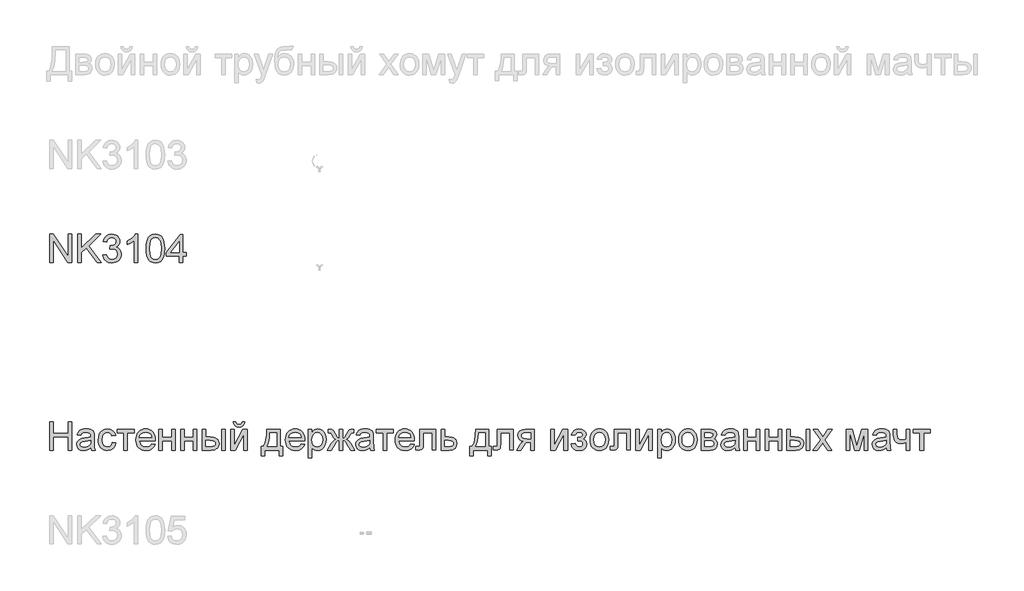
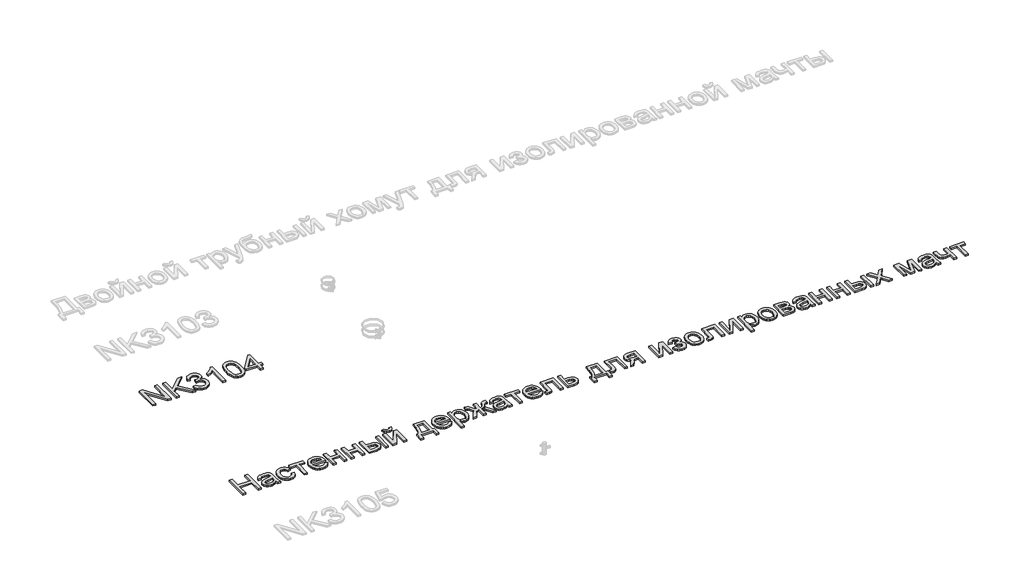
# One storey, part 14 of 124: 2 proxies.
"""IFC4 building model written with IfcOpenShell, lengths in millimetres."""

from ifc_helpers import new_model, si_unit, origin, origin_with_axes, place, context, project, spatial, polyline, outline, extrude, element, save

model = new_model("IFC4")

# Units and contexts
model_context = context("Model", 3, world=origin())
ifc_project = project(units=[si_unit("LENGTHUNIT", "METRE", prefix="MILLI")], contexts=[model_context])

# Site, building, storey
site = spatial("IfcSite", under=ifc_project)
building = spatial("IfcBuilding", under=site)
storey = spatial("IfcBuildingStorey", under=building, Name="Этаж 01", Elevation=0.0)

# Proxies
placement = place(None, origin())
element("IfcBuildingElementProxy", 1, Name="300", ObjectType="300", at=placement, inside=storey, context=model_context, shape_type="SweptSolid", body=[
    extrude(outline(polyline([(1299.8220677, -106548.8731539), (1299.8220677, -106247.5042234), (1340.1419344, -106247.5042234), (1497.5954283, -106486.2596383), (1497.5954283, -106247.5042234), (1535.2665446, -106247.5042234), (1535.2665446, -106548.8731539), (1494.9466779, -106548.8731539), (1337.493184, -106310.0441626), (1337.493184, -106548.8731539), (1299.8220677, -106548.8731539)])), origin_with_axes(), (0.0, 0.0, 1.0), 20.0),
    extrude(outline(polyline([(1601.1909981, -106548.8731539), (1601.1909981, -106247.5042234), (1638.8621144, -106247.5042234), (1638.8621144, -106395.0249035), (1793.3725524, -106247.5042234), (1846.0532541, -106247.5042234), (1716.3380626, -106371.4068794), (1850.7621437, -106548.8731539), (1804.7033179, -106548.8731539), (1689.6298298, -106396.8643135), (1638.8621144, -106445.277584), (1638.8621144, -106548.8731539), (1601.1909981, -106548.8731539)])), origin_with_axes(), (0.0, 0.0, 1.0), 20.0),
    extrude(outline(polyline([(1864.8888123, -106468.8220317), (1902.5599286, -106464.1131422), (1910.9936233, -106487.7863486), (1923.3452613, -106503.7708213), (1940.2218478, -106512.8759007), (1962.2303882, -106515.9109271), (1988.0557043, -106511.7354665), (2007.9949084, -106499.2090845), (2020.7420195, -106480.5206792), (2024.9910566, -106457.8591483), (2020.7788077, -106436.3472486), (2008.1420612, -106418.900445), (1989.0121975, -106407.3397533), (1965.320597, -106403.4861894), (1938.9066697, -106407.6064677), (1943.1005245, -106369.9353514), (1949.1337892, -106370.3768098), (1971.7033496, -106367.6728772), (1991.881677, -106359.5610792), (2006.1187102, -106345.8390807), (2010.864388, -106326.3045468), (2007.4246913, -106310.0349656), (1997.1056014, -106296.837199), (1981.360252, -106288.0908046), (1961.641777, -106285.1753397), (1941.8865139, -106288.1183957), (1925.7364943, -106296.9475636), (1913.9458763, -106311.6628434), (1907.2688181, -106332.2642351), (1869.5977018, -106327.5553456), (1880.689344, -106293.7285961), (1900.426213, -106268.4734972), (1927.4287515, -106252.7465419), (1960.3174018, -106247.5042234), (1983.9998053, -106250.0885945), (2005.7508282, -106257.8417075), (2024.0897457, -106270.0737838), (2037.5358326, -106286.0950447), (2045.7855864, -106304.5535238), (2048.5355043, -106324.0972548), (2045.9235421, -106342.3074136), (2038.0876556, -106358.8253152), (2025.1382094, -106372.8968015), (2007.185568, -106383.7677145), (2030.7668039, -106393.2958581), (2048.2411987, -106409.5194541), (2059.0569293, -106431.5555856), (2062.6621729, -106458.5213359), (2060.8595511, -106477.6328055), (2055.4516858, -106495.235959), (2046.4385769, -106511.3307963), (2033.8202245, -106525.9173174), (2018.4473556, -106538.020635), (2001.1706974, -106546.6658619), (1981.9902499, -106551.852998), (1960.906013, -106553.5820434), (1941.8497257, -106552.1059169), (1924.4856955, -106547.6775374), (1908.8139225, -106540.2969049), (1894.8344067, -106529.9640193), (1883.1127666, -106517.2858861), (1874.2146209, -106502.8695104), (1868.1399694, -106486.7148923), (1864.8888123, -106468.8220317)])), origin_with_axes(), (0.0, 0.0, 1.0), 20.0),
    extrude(outline(polyline([(2236.8910858, -106548.8731539), (2199.2199695, -106548.8731539), (2199.2199695, -106314.0172882), (2163.535416, -106339.437934), (2123.8777369, -106358.4574332), (2123.8777369, -106322.846456), (2153.4646464, -106306.7516188), (2179.0968244, -106287.6033609), (2199.302743, -106267.2410925), (2212.6108741, -106247.5042234), (2236.8910858, -106247.5042234), (2236.8910858, -106548.8731539)])), origin_with_axes(), (0.0, 0.0, 1.0), 20.0),
    extrude(outline(polyline([(2326.359987, -106400.6167098), (2329.128299, -106352.3781832), (2337.4332351, -106313.9069236), (2351.1920217, -106284.6143197), (2370.3218855, -106263.9117604), (2394.9607821, -106251.6061077), (2425.2466673, -106247.5042234), (2448.4600212, -106249.9322446), (2469.245354, -106257.2163081), (2486.6277782, -106269.0713054), (2499.6324068, -106285.2121279), (2509.454856, -106305.50082), (2517.2907425, -106329.7994258), (2522.4226964, -106360.6555281), (2524.1333476, -106400.6167098), (2521.3926268, -106448.579325), (2513.1704642, -106486.9586141), (2499.494451, -106516.2788091), (2480.3921784, -106537.0641418), (2455.6980995, -106549.452568), (2425.2466673, -106553.5820434), (2404.4981228, -106551.7886187), (2386.1040231, -106546.4083445), (2370.0643681, -106537.4412209), (2356.3791578, -106524.8872478), (2343.2457706, -106502.1935272), (2333.8647797, -106473.9171974), (2328.2361852, -106440.0582582), (2326.359987, -106400.6167098)]), holes=[polyline([(2364.0311033, -106400.5431334), (2368.4456873, -106459.7997258), (2373.9639172, -106480.0677245), (2381.6894391, -106494.0955248), (2401.4079141, -106510.4570765), (2425.2466673, -106515.9109271), (2449.0854206, -106510.4386824), (2468.8038956, -106494.0219484), (2476.5294175, -106479.9711555), (2482.0476474, -106459.7077553), (2486.4622313, -106400.5431334), (2482.1948002, -106342.6201133), (2476.8605113, -106322.4187932), (2469.3925068, -106308.0575998), (2449.71082, -106290.8959048), (2424.8052089, -106285.1753397), (2401.2239731, -106290.2153231), (2382.2780503, -106305.3352731), (2374.295011, -106320.9702579), (2368.5928401, -106342.0498962), (2364.0311033, -106400.5431334)])]), origin_with_axes(), (0.0, 0.0, 1.0), 20.0),
    extrude(outline(polyline([(2679.5267024, -106548.8731539), (2679.5267024, -106478.2398108), (2542.9689058, -106478.2398108), (2542.9689058, -106440.5686945), (2688.9444815, -106252.213113), (2717.1978187, -106252.213113), (2717.1978187, -106440.5686945), (2754.868935, -106440.5686945), (2754.868935, -106478.2398108), (2717.1978187, -106478.2398108), (2717.1978187, -106548.8731539), (2679.5267024, -106548.8731539)]), holes=[polyline([(2679.5267024, -106440.5686945), (2679.5267024, -106324.1708312), (2589.3220372, -106440.5686945), (2679.5267024, -106440.5686945)])]), origin_with_axes(), (0.0, 0.0, 1.0), 20.0),
])
element("IfcBuildingElementProxy", 2, Name="300", ObjectType="300", at=placement, inside=storey, context=model_context, shape_type="SweptSolid", body=[
    extrude(outline(polyline([(1299.8220677, -108548.8731539), (1299.8220677, -108247.5042234), (1337.493184, -108247.5042234), (1337.493184, -108369.9353514), (1497.5954283, -108369.9353514), (1497.5954283, -108247.5042234), (1535.2665446, -108247.5042234), (1535.2665446, -108548.8731539), (1497.5954283, -108548.8731539), (1497.5954283, -108407.6064677), (1337.493184, -108407.6064677), (1337.493184, -108548.8731539), (1299.8220677, -108548.8731539)])), origin_with_axes(), (0.0, 0.0, 1.0), 20.0),
    extrude(outline(polyline([(1737.7487948, -108520.6198167), (1719.7501681, -108536.0524664), (1701.2181126, -108546.1508271), (1681.7295639, -108551.7242393), (1660.8614578, -108553.5820434), (1629.379956, -108549.1122772), (1606.1574051, -108535.7029785), (1591.8375984, -108515.34071), (1587.0643295, -108490.0120347), (1588.8669513, -108474.395444), (1594.2748166, -108460.213593), (1602.6165409, -108448.0734872), (1613.2207394, -108438.5821317), (1639.5978784, -108426.2212967), (1672.1922232, -108420.555914), (1710.7094681, -108414.5962256), (1737.5280656, -108407.6064677), (1737.7487948, -108399.2187582), (1735.1552267, -108382.4065511), (1727.3745225, -108371.4068794), (1709.9737041, -108363.2398991), (1685.7302806, -108360.5175724), (1663.2894789, -108362.3293912), (1647.6177059, -108367.7648477), (1636.930734, -108377.8172232), (1629.4443354, -108393.4797991), (1591.7732191, -108388.7709096), (1598.3123215, -108368.1695179), (1608.0703915, -108351.9827101), (1621.9579368, -108339.6034809), (1640.8854654, -108330.4248251), (1664.03444, -108324.7410483), (1690.586323, -108322.846456), (1716.0529541, -108324.5203191), (1736.2404786, -108329.5419084), (1751.4615961, -108337.0926863), (1762.0290064, -108346.3541155), (1769.0371584, -108357.8044426), (1773.5805011, -108371.9219142), (1775.4199111, -108404.884141), (1775.4199111, -108451.7523072), (1777.3328974, -108517.1985141), (1784.8376901, -108548.8731539), (1747.1665738, -108548.8731539), (1737.7487948, -108520.6198167)]), holes=[polyline([(1737.7487948, -108445.277584), (1676.9746891, -108456.8290787), (1644.5642854, -108462.9359198), (1629.8857938, -108472.8687337), (1624.7354458, -108487.3632843), (1627.540546, -108498.565291), (1635.9558467, -108507.7439468), (1649.7974068, -108513.869182), (1668.8812853, -108515.9109271), (1689.114795, -108513.6576499), (1706.99386, -108506.8978182), (1721.4884106, -108496.9374132), (1731.5683772, -108485.0824159), (1736.0381435, -108472.8687337), (1737.5280656, -108455.9461619), (1737.7487948, -108445.277584)])]), origin_with_axes(), (0.0, 0.0, 1.0), 20.0),
    extrude(outline(polyline([(1968.4843821, -108468.8220317), (2006.1554984, -108473.5309213), (1995.6524675, -108507.035774), (1975.9155984, -108532.3552523), (1948.8026954, -108548.2753456), (1916.1715624, -108553.5820434), (1895.0436396, -108551.7311371), (1876.1000161, -108546.1784183), (1859.3406919, -108536.9238868), (1844.7656671, -108523.9675428), (1832.9681514, -108507.553108), (1824.5413545, -108487.9243043), (1819.4852763, -108465.0811317), (1817.7999169, -108439.0235901), (1820.6785935, -108405.5003433), (1829.3146234, -108376.4468627), (1843.8459622, -108352.9851885), (1864.4105657, -108336.2373607), (1889.0126741, -108326.1941822), (1915.6565276, -108322.846456), (1947.4875173, -108327.444981), (1972.9357543, -108341.2405558), (1991.1918983, -108363.4974165), (2001.4466089, -108393.4797991), (1963.7754926, -108398.1886887), (1956.9420845, -108381.7535605), (1946.3010978, -108369.9721396), (1932.4411436, -108362.8812142), (1915.9508332, -108360.5175724), (1891.6062422, -108365.1712796), (1872.2832404, -108379.1324013), (1859.674085, -108403.1550956), (1855.4710332, -108437.9935205), (1859.5821145, -108473.300995), (1871.9153584, -108497.4064628), (1890.8888723, -108511.284811), (1914.9207636, -108515.9109271), (1934.4277064, -108513.0230535), (1950.4213762, -108504.3594325), (1962.0556443, -108489.699335), (1968.4843821, -108468.8220317)])), origin_with_axes(), (0.0, 0.0, 1.0), 20.0),
    extrude(outline(polyline([(2020.282167, -108327.5553456), (2199.2199695, -108327.5553456), (2199.2199695, -108365.2264619), (2128.5866264, -108365.2264619), (2128.5866264, -108548.8731539), (2090.9155101, -108548.8731539), (2090.9155101, -108365.2264619), (2020.282167, -108365.2264619), (2020.282167, -108327.5553456)])), origin_with_axes(), (0.0, 0.0, 1.0), 20.0),
    extrude(outline(polyline([(2387.1340926, -108482.9487003), (2424.069445, -108487.6575899), (2410.7613138, -108515.4878628), (2389.5253256, -108536.2915897), (2360.839727, -108549.25943), (2325.1827647, -108553.5820434), (2301.8084624, -108551.7173416), (2280.9817429, -108546.123236), (2262.7026063, -108536.7997267), (2246.9710525, -108523.7468136), (2234.3205104, -108507.3277803), (2225.2844089, -108487.9059102), (2219.862748, -108465.4812034), (2218.0555277, -108440.0536597), (2219.8811421, -108413.7638926), (2225.3579853, -108390.5919255), (2234.4860573, -108370.5377582), (2247.2653581, -108353.6013908), (2262.9555252, -108340.1461069), (2280.816196, -108330.5351897), (2300.8473707, -108324.7686395), (2323.0490491, -108322.846456), (2344.5356569, -108324.7640409), (2363.966724, -108330.5167956), (2381.3422505, -108340.1047201), (2396.6622363, -108353.5278144), (2409.1679249, -108370.4273936), (2418.1005596, -108390.4447727), (2423.4601404, -108413.5799516), (2425.2466673, -108439.8329305), (2425.0259381, -108449.9864736), (2255.726644, -108449.9864736), (2262.2473523, -108478.1846285), (2277.3948935, -108498.9147789), (2299.256281, -108511.6618901), (2325.9185286, -108515.9109271), (2345.9680974, -108513.9427584), (2362.853881, -108508.0382524), (2376.5758794, -108497.8295271), (2387.1340926, -108482.9487003)]), holes=[polyline([(2255.726644, -108412.3153573), (2387.575551, -108412.3153573), (2382.4803854, -108392.4129413), (2372.4923892, -108378.1759081), (2350.5298341, -108364.9321563), (2322.9018963, -108360.5175724), (2297.5088416, -108364.0400425), (2276.5119767, -108374.6074528), (2261.9162585, -108391.0793691), (2255.726644, -108412.3153573)])]), origin_with_axes(), (0.0, 0.0, 1.0), 20.0),
    extrude(outline(polyline([(2462.9177836, -108327.5553456), (2500.5889, -108327.5553456), (2500.5889, -108412.3153573), (2599.4755803, -108412.3153573), (2599.4755803, -108327.5553456), (2637.1466966, -108327.5553456), (2637.1466966, -108548.8731539), (2599.4755803, -108548.8731539), (2599.4755803, -108449.9864736), (2500.5889, -108449.9864736), (2500.5889, -108548.8731539), (2462.9177836, -108548.8731539), (2462.9177836, -108327.5553456)])), origin_with_axes(), (0.0, 0.0, 1.0), 20.0),
    extrude(outline(polyline([(2693.653371, -108327.5553456), (2731.3244873, -108327.5553456), (2731.3244873, -108412.3153573), (2830.2111676, -108412.3153573), (2830.2111676, -108327.5553456), (2867.8822839, -108327.5553456), (2867.8822839, -108548.8731539), (2830.2111676, -108548.8731539), (2830.2111676, -108449.9864736), (2731.3244873, -108449.9864736), (2731.3244873, -108548.8731539), (2693.653371, -108548.8731539), (2693.653371, -108327.5553456)])), origin_with_axes(), (0.0, 0.0, 1.0), 20.0),
    extrude(outline(polyline([(3131.5800981, -108327.5553456), (3169.2512144, -108327.5553456), (3169.2512144, -108548.8731539), (3131.5800981, -108548.8731539), (3131.5800981, -108327.5553456)])), origin_with_axes(), (0.0, 0.0, 1.0), 20.0),
    extrude(outline(polyline([(2924.3889584, -108327.5553456), (2962.0600747, -108327.5553456), (2962.0600747, -108407.6064677), (3008.6339353, -108407.6064677), (3048.8894226, -108412.3245543), (3065.1061208, -108418.2221626), (3078.7154554, -108426.4788141), (3089.4829015, -108436.8094004), (3097.1739345, -108448.9288128), (3101.7885543, -108462.8370515), (3103.3267608, -108478.5341164), (3098.1672159, -108505.4906696), (3082.6885809, -108528.234974), (3070.8266858, -108537.2641777), (3055.8791805, -108543.7136089), (3016.7273392, -108548.8731539), (2924.3889584, -108548.8731539), (2924.3889584, -108327.5553456)]), holes=[polyline([(2962.0600747, -108511.2020376), (3000.7612606, -108511.2020376), (3030.7620373, -108509.2246719), (3050.7196355, -108503.2925747), (3061.9216423, -108493.1666228), (3065.6556445, -108478.6076928), (3062.8873325, -108466.3020401), (3054.5823965, -108455.4311271), (3036.8228932, -108447.8159698), (3005.6908793, -108445.277584), (2962.0600747, -108445.277584), (2962.0600747, -108511.2020376)])]), origin_with_axes(), (0.0, 0.0, 1.0), 20.0),
    extrude(outline(polyline([(3348.1890168, -108247.5042234), (3376.4423541, -108247.5042234), (3370.3631041, -108271.6280853), (3358.1586189, -108289.4059827), (3340.3807215, -108300.3596691), (3317.5812348, -108304.0108979), (3292.8411707, -108300.3872602), (3273.6561246, -108289.5163473), (3260.5411315, -108271.766041), (3254.0112261, -108247.5042234), (3282.2645633, -108247.5042234), (3286.2376889, -108259.9110437), (3292.8595648, -108268.7310146), (3302.1669792, -108274.0009241), (3314.1967205, -108275.7575607), (3327.7715661, -108274.0561064), (3337.5940154, -108268.9517438), (3344.2158913, -108260.1869552), (3348.1890168, -108247.5042234)])), origin_with_axes(), (0.0, 0.0, 1.0), 20.0),
    extrude(outline(polyline([(3225.7578888, -108327.5553456), (3263.4290051, -108327.5553456), (3263.4290051, -108496.339605), (3355.9881151, -108327.5553456), (3404.6956913, -108327.5553456), (3404.6956913, -108548.8731539), (3367.024575, -108548.8731539), (3367.024575, -108381.1189641), (3275.0540762, -108548.8731539), (3225.7578888, -108548.8731539), (3225.7578888, -108327.5553456)])), origin_with_axes(), (0.0, 0.0, 1.0), 20.0),
    extrude(outline(polyline([(3611.886831, -108327.5553456), (3753.1535171, -108327.5553456), (3753.1535171, -108511.2020376), (3781.4068544, -108511.2020376), (3781.4068544, -108610.0887179), (3743.7357381, -108610.0887179), (3743.7357381, -108548.8731539), (3588.3423833, -108548.8731539), (3588.3423833, -108610.0887179), (3550.671267, -108610.0887179), (3550.671267, -108511.2020376), (3574.2157147, -108511.2020376), (3591.3314245, -108480.2723588), (3603.3151805, -108439.3546839), (3610.1669827, -108388.4490128), (3611.886831, -108327.5553456)]), holes=[polyline([(3644.8490577, -108365.2264619), (3641.758849, -108411.349667), (3636.0198899, -108451.0533314), (3627.6321804, -108484.3374549), (3616.5957205, -108511.2020376), (3715.4824008, -108511.2020376), (3715.4824008, -108365.2264619), (3644.8490577, -108365.2264619)])]), origin_with_axes(), (0.0, 0.0, 1.0), 20.0),
    extrude(outline(polyline([(3978.7387566, -108482.9487003), (4015.6741089, -108487.6575899), (4002.3659777, -108515.4878628), (3981.1299895, -108536.2915897), (3952.444391, -108549.25943), (3916.7874286, -108553.5820434), (3893.4131263, -108551.7173416), (3872.5864069, -108546.123236), (3854.3072702, -108536.7997267), (3838.5757164, -108523.7468136), (3825.9251743, -108507.3277803), (3816.8890728, -108487.9059102), (3811.4674119, -108465.4812034), (3809.6601916, -108440.0536597), (3811.485806, -108413.7638926), (3816.9626492, -108390.5919255), (3826.0907212, -108370.5377582), (3838.870022, -108353.6013908), (3854.5601891, -108340.1461069), (3872.42086, -108330.5351897), (3892.4520346, -108324.7686395), (3914.653713, -108322.846456), (3936.1403208, -108324.7640409), (3955.5713879, -108330.5167956), (3972.9469144, -108340.1047201), (3988.2669002, -108353.5278144), (4000.7725888, -108370.4273936), (4009.7052235, -108390.4447727), (4015.0648043, -108413.5799516), (4016.8513313, -108439.8329305), (4016.6306021, -108449.9864736), (3847.3313079, -108449.9864736), (3853.8520163, -108478.1846285), (3868.9995574, -108498.9147789), (3890.860945, -108511.6618901), (3917.5231926, -108515.9109271), (3937.5727613, -108513.9427584), (3954.4585449, -108508.0382524), (3968.1805433, -108497.8295271), (3978.7387566, -108482.9487003)]), holes=[polyline([(3847.3313079, -108412.3153573), (3979.180215, -108412.3153573), (3974.0850493, -108392.4129413), (3964.0970532, -108378.1759081), (3942.1344981, -108364.9321563), (3914.5065602, -108360.5175724), (3889.1135055, -108364.0400425), (3868.1166406, -108374.6074528), (3853.5209225, -108391.0793691), (3847.3313079, -108412.3153573)])]), origin_with_axes(), (0.0, 0.0, 1.0), 20.0),
    extrude(outline(polyline([(4054.5224476, -108633.6331656), (4054.5224476, -108327.5553456), (4092.1935639, -108327.5553456), (4092.1935639, -108364.4906979), (4104.4808225, -108346.2713421), (4118.2396091, -108333.2575165), (4134.2792641, -108325.4492212), (4153.4091279, -108322.846456), (4178.884956, -108326.4884878), (4201.1602109, -108337.4145831), (4219.2967932, -108354.9625542), (4232.356604, -108378.4702137), (4240.2476728, -108406.2269103), (4242.8780291, -108436.5219926), (4239.907382, -108468.7392583), (4230.9954407, -108497.5536156), (4216.4273137, -108521.5027334), (4196.4881095, -108539.124281), (4173.2655586, -108549.9676028), (4148.8473911, -108553.5820434), (4131.5293462, -108551.1632193), (4116.0691054, -108543.906747), (4102.8345506, -108532.9530605), (4092.1935639, -108519.4425943), (4092.1935639, -108633.6331656), (4054.5224476, -108633.6331656)]), holes=[polyline([(4092.1935639, -108439.9800833), (4096.267857, -108473.7516505), (4108.4907363, -108497.3696746), (4126.5261511, -108511.275614), (4148.0380508, -108515.9109271), (4169.8994383, -108511.1100671), (4188.3947056, -108496.707487), (4201.003861, -108472.2249402), (4205.2069128, -108437.1841801), (4201.1050286, -108403.596554), (4188.7993758, -108379.6474361), (4170.7915522, -108365.3000383), (4149.5831551, -108360.5175724), (4128.2919847, -108365.6035409), (4109.5943823, -108380.8614467), (4096.5437685, -108405.813043), (4092.1935639, -108439.9800833)])]), origin_with_axes(), (0.0, 0.0, 1.0), 20.0),
    extrude(outline(polyline([(4421.8158316, -108327.5553456), (4421.8158316, -108421.7331364), (4435.1055686, -108419.7925588), (4443.7783867, -108413.9708263), (4464.5637194, -108373.6877478), (4477.5315597, -108348.5798016), (4489.3589659, -108335.0601383), (4503.7247578, -108329.4315438), (4524.602061, -108327.5553456), (4539.53807, -108327.5553456), (4539.53807, -108365.4471911), (4529.1637978, -108365.2264619), (4509.7396284, -108369.126011), (4496.2751474, -108393.5533755), (4480.6401626, -108420.3351848), (4458.3097255, -108433.9468186), (4470.7027502, -108439.2489178), (4482.9394251, -108448.6069161), (4506.9437252, -108479.4906096), (4548.9558491, -108548.8731539), (4505.7665029, -108548.8731539), (4464.4165666, -108480.4471028), (4453.1133923, -108462.4852644), (4443.3369283, -108452.0098246), (4433.4500997, -108446.9606442), (4421.8158316, -108445.277584), (4421.8158316, -108548.8731539), (4384.1447153, -108548.8731539), (4384.1447153, -108445.277584), (4372.6024177, -108446.923856), (4362.6971949, -108451.8626718), (4352.8471545, -108462.2645352), (4341.4704038, -108480.29995), (4300.1204676, -108548.8731539), (4257.0046977, -108548.8731539), (4298.8696688, -108479.4906096), (4323.05791, -108448.6069161), (4335.3589642, -108439.2489178), (4347.7979741, -108433.9468186), (4333.4137881, -108426.7363315), (4324.1063736, -108418.9372332), (4303.7992875, -108380.3096237), (4293.8664736, -108367.5809067), (4277.6060895, -108365.0057327), (4266.4224768, -108365.2264619), (4266.4224768, -108327.5553456), (4272.0878595, -108327.5553456), (4305.1236627, -108329.9097904), (4322.2669637, -108339.9161806), (4341.4704038, -108373.6877478), (4362.0350073, -108413.7133089), (4370.7078254, -108419.7281795), (4384.1447153, -108421.7331364), (4384.1447153, -108327.5553456), (4421.8158316, -108327.5553456)])), origin_with_axes(), (0.0, 0.0, 1.0), 20.0),
    extrude(outline(polyline([(4709.0580934, -108520.6198167), (4691.0594668, -108536.0524664), (4672.5274113, -108546.1508271), (4653.0388626, -108551.7242393), (4632.1707564, -108553.5820434), (4600.6892547, -108549.1122772), (4577.4667037, -108535.7029785), (4563.1468971, -108515.34071), (4558.3736282, -108490.0120347), (4560.1762499, -108474.395444), (4565.5841153, -108460.213593), (4573.9258395, -108448.0734872), (4584.530038, -108438.5821317), (4610.9071771, -108426.2212967), (4643.5015219, -108420.555914), (4682.0187668, -108414.5962256), (4708.8373642, -108407.6064677), (4709.0580934, -108399.2187582), (4706.4645253, -108382.4065511), (4698.6838211, -108371.4068794), (4681.2830028, -108363.2398991), (4657.0395793, -108360.5175724), (4634.5987776, -108362.3293912), (4618.9270046, -108367.7648477), (4608.2400326, -108377.8172232), (4600.753634, -108393.4797991), (4563.0825177, -108388.7709096), (4569.6216202, -108368.1695179), (4579.3796901, -108351.9827101), (4593.2672354, -108339.6034809), (4612.1947641, -108330.4248251), (4635.3437386, -108324.7410483), (4661.8956216, -108322.846456), (4687.3622527, -108324.5203191), (4707.5497772, -108329.5419084), (4722.7708948, -108337.0926863), (4733.3383051, -108346.3541155), (4740.3464571, -108357.8044426), (4744.8897997, -108371.9219142), (4746.7292097, -108404.884141), (4746.7292097, -108451.7523072), (4748.6421961, -108517.1985141), (4756.1469888, -108548.8731539), (4718.4758725, -108548.8731539), (4709.0580934, -108520.6198167)]), holes=[polyline([(4709.0580934, -108445.277584), (4648.2839878, -108456.8290787), (4615.873584, -108462.9359198), (4601.1950924, -108472.8687337), (4596.0447445, -108487.3632843), (4598.8498447, -108498.565291), (4607.2651453, -108507.7439468), (4621.1067054, -108513.869182), (4640.1905839, -108515.9109271), (4660.4240936, -108513.6576499), (4678.3031586, -108506.8978182), (4692.7977092, -108496.9374132), (4702.8776759, -108485.0824159), (4707.3474421, -108472.8687337), (4708.8373642, -108455.9461619), (4709.0580934, -108445.277584)])]), origin_with_axes(), (0.0, 0.0, 1.0), 20.0),
    extrude(outline(polyline([(4779.6914365, -108327.5553456), (4958.6292389, -108327.5553456), (4958.6292389, -108365.2264619), (4887.9958959, -108365.2264619), (4887.9958959, -108548.8731539), (4850.3247795, -108548.8731539), (4850.3247795, -108365.2264619), (4779.6914365, -108365.2264619), (4779.6914365, -108327.5553456)])), origin_with_axes(), (0.0, 0.0, 1.0), 20.0),
    extrude(outline(polyline([(5146.5433621, -108482.9487003), (5183.4787144, -108487.6575899), (5170.1705832, -108515.4878628), (5148.934595, -108536.2915897), (5120.2489965, -108549.25943), (5084.5920341, -108553.5820434), (5061.2177318, -108551.7173416), (5040.3910124, -108546.123236), (5022.1118757, -108536.7997267), (5006.3803219, -108523.7468136), (4993.7297798, -108507.3277803), (4984.6936783, -108487.9059102), (4979.2720174, -108465.4812034), (4977.4647971, -108440.0536597), (4979.2904115, -108413.7638926), (4984.7672547, -108390.5919255), (4993.8953267, -108370.5377582), (5006.6746275, -108353.6013908), (5022.3647946, -108340.1461069), (5040.2254655, -108330.5351897), (5060.2566401, -108324.7686395), (5082.4583185, -108322.846456), (5103.9449263, -108324.7640409), (5123.3759934, -108330.5167956), (5140.7515199, -108340.1047201), (5156.0715057, -108353.5278144), (5168.5771943, -108370.4273936), (5177.509829, -108390.4447727), (5182.8694098, -108413.5799516), (5184.6559368, -108439.8329305), (5184.4352076, -108449.9864736), (5015.1359134, -108449.9864736), (5021.6566217, -108478.1846285), (5036.8041629, -108498.9147789), (5058.6655505, -108511.6618901), (5085.3277981, -108515.9109271), (5105.3773668, -108513.9427584), (5122.2631504, -108508.0382524), (5135.9851488, -108497.8295271), (5146.5433621, -108482.9487003)]), holes=[polyline([(5015.1359134, -108412.3153573), (5146.9848205, -108412.3153573), (5141.8896548, -108392.4129413), (5131.9016587, -108378.1759081), (5109.9391035, -108364.9321563), (5082.3111657, -108360.5175724), (5056.918111, -108364.0400425), (5035.9212461, -108374.6074528), (5021.325528, -108391.0793691), (5015.1359134, -108412.3153573)])]), origin_with_axes(), (0.0, 0.0, 1.0), 20.0),
    extrude(outline(polyline([(5241.1626112, -108327.5553456), (5410.6826346, -108327.5553456), (5410.6826346, -108548.6524247), (5373.0115183, -108548.6524247), (5373.0115183, -108365.2264619), (5278.8337275, -108365.2264619), (5278.8337275, -108470.8085945), (5276.2953418, -108519.5161707), (5271.540467, -108530.5434335), (5262.3526141, -108540.0807742), (5248.4098865, -108546.675059), (5229.3903874, -108548.8731539), (5198.7826054, -108546.9601675), (5198.7826054, -108511.2020376), (5215.6316008, -108511.2020376), (5232.6645371, -108508.884381), (5239.470354, -108501.5267411), (5241.1626112, -108468.6748789), (5241.1626112, -108327.5553456)])), origin_with_axes(), (0.0, 0.0, 1.0), 20.0),
    extrude(outline(polyline([(5467.1893091, -108327.5553456), (5504.8604254, -108327.5553456), (5504.8604254, -108407.6064677), (5548.2705008, -108407.6064677), (5585.9048289, -108412.3245543), (5601.0523701, -108418.2221626), (5613.7534959, -108426.4788141), (5623.7966744, -108436.8094004), (5630.9703733, -108448.9288128), (5636.7093324, -108478.5341164), (5631.8256989, -108505.4906696), (5617.1747985, -108528.234974), (5605.9429013, -108537.2641777), (5591.7817438, -108543.7136089), (5554.6716475, -108548.8731539), (5467.1893091, -108548.8731539), (5467.1893091, -108327.5553456)]), holes=[polyline([(5504.8604254, -108511.2020376), (5540.0299441, -108511.2020376), (5567.3175911, -108509.2246719), (5585.4633705, -108503.2925747), (5595.6445047, -108493.1666228), (5599.0382161, -108478.6076928), (5596.5274215, -108466.3020401), (5588.9950377, -108455.4311271), (5572.8542151, -108447.8159698), (5544.5181044, -108445.277584), (5504.8604254, -108445.277584), (5504.8604254, -108511.2020376)])]), origin_with_axes(), (0.0, 0.0, 1.0), 20.0),
    extrude(outline(polyline([(5834.482693, -108327.5553456), (5975.7493792, -108327.5553456), (5975.7493792, -108511.2020376), (6004.0027164, -108511.2020376), (6004.0027164, -108610.0887179), (5966.3316001, -108610.0887179), (5966.3316001, -108548.8731539), (5810.9382453, -108548.8731539), (5810.9382453, -108610.0887179), (5773.267129, -108610.0887179), (5773.267129, -108511.2020376), (5796.8115767, -108511.2020376), (5813.9272866, -108480.2723588), (5825.9110426, -108439.3546839), (5832.7628447, -108388.4490128), (5834.482693, -108327.5553456)]), holes=[polyline([(5867.4449198, -108365.2264619), (5864.354711, -108411.349667), (5858.6157519, -108451.0533314), (5850.2280424, -108484.3374549), (5839.1915826, -108511.2020376), (5938.0782629, -108511.2020376), (5938.0782629, -108365.2264619), (5867.4449198, -108365.2264619)])]), origin_with_axes(), (0.0, 0.0, 1.0), 20.0),
    extrude(outline(polyline([(6065.2182804, -108327.5553456), (6234.7383038, -108327.5553456), (6234.7383038, -108548.6524247), (6197.0671875, -108548.6524247), (6197.0671875, -108365.2264619), (6102.8893967, -108365.2264619), (6102.8893967, -108470.8085945), (6100.351011, -108519.5161707), (6095.5961362, -108530.5434335), (6086.4082833, -108540.0807742), (6072.4655557, -108546.675059), (6053.4460566, -108548.8731539), (6022.8382746, -108546.9601675), (6022.8382746, -108511.2020376), (6039.68727, -108511.2020376), (6056.7202063, -108508.884381), (6063.5260232, -108501.5267411), (6065.2182804, -108468.6748789), (6065.2182804, -108327.5553456)])), origin_with_axes(), (0.0, 0.0, 1.0), 20.0),
    extrude(outline(polyline([(6460.7650016, -108327.5553456), (6460.7650016, -108548.8731539), (6423.0938853, -108548.8731539), (6423.0938853, -108464.1131422), (6402.56607, -108464.1131422), (6374.6070384, -108468.8956081), (6363.4418198, -108479.3250627), (6348.3402639, -108501.0484945), (6318.3210931, -108548.8731539), (6274.7638649, -108548.8731539), (6312.582134, -108488.3933539), (6329.2839766, -108466.6883162), (6344.661444, -108457.0498079), (6318.9097043, -108449.1587391), (6300.8099101, -108434.1675478), (6290.1045441, -108414.2283437), (6286.5360887, -108391.4932363), (6291.4105252, -108365.7047085), (6306.0338345, -108345.2872578), (6329.8909818, -108331.9883236), (6362.4669325, -108327.5553456), (6460.7650016, -108327.5553456)]), holes=[polyline([(6423.0938853, -108365.2264619), (6373.429816, -108365.2264619), (6347.7792439, -108367.4061627), (6333.2203139, -108373.9452652), (6326.4604822, -108383.4090295), (6324.207205, -108394.3627159), (6327.52734, -108408.7193108), (6337.487745, -108418.6797158), (6355.8910419, -108424.5014484), (6384.5398522, -108426.4420259), (6423.0938853, -108426.4420259), (6423.0938853, -108365.2264619)])]), origin_with_axes(), (0.0, 0.0, 1.0), 20.0),
    extrude(outline(polyline([(6634.9939145, -108327.5553456), (6672.6650309, -108327.5553456), (6672.6650309, -108496.339605), (6765.2241408, -108327.5553456), (6813.931717, -108327.5553456), (6813.931717, -108548.8731539), (6776.2606007, -108548.8731539), (6776.2606007, -108381.1189641), (6684.2901019, -108548.8731539), (6634.9939145, -108548.8731539), (6634.9939145, -108327.5553456)])), origin_with_axes(), (0.0, 0.0, 1.0), 20.0),
    extrude(outline(polyline([(6922.2361764, -108449.9864736), (6922.2361764, -108412.3153573), (6951.9610416, -108410.8438293), (6966.970627, -108403.0079428), (6972.2681277, -108395.6594999), (6974.0339613, -108386.637194), (6971.6703195, -108375.9226309), (6964.579394, -108367.6176949), (6953.7544663, -108362.292603), (6940.1888177, -108360.5175724), (6926.4760164, -108362.2834059), (6914.9889011, -108367.5809067), (6905.7274718, -108376.4100745), (6898.6917287, -108388.7709096), (6856.3117228, -108384.06202), (6867.5505178, -108357.2802108), (6884.6386365, -108338.150347), (6907.5760789, -108326.6724288), (6936.362845, -108322.846456), (6967.8535438, -108327.5093603), (6991.6922971, -108341.4980732), (7006.7018825, -108361.9615092), (7011.7050776, -108386.0485828), (7009.9254485, -108398.4094179), (7004.586561, -108409.4458777), (6995.6884152, -108419.1579624), (6983.2310112, -108427.5456719), (6997.771547, -108438.0119146), (7008.1366223, -108451.0165432), (7014.3446309, -108466.5963457), (7016.4139671, -108484.7881103), (7011.1624517, -108512.5172157), (6995.4079052, -108534.4889679), (6970.2171856, -108548.8087745), (6936.6571506, -108553.5820434), (6903.8328796, -108549.1674595), (6878.7157364, -108535.9237077), (6861.3057209, -108513.8507879), (6851.6028333, -108482.9487003), (6893.9828392, -108478.2398108), (6900.3288036, -108494.1691012), (6910.9789873, -108506.0516896), (6924.7009857, -108513.4461177), (6940.2623941, -108515.9109271), (6955.4191323, -108513.5472853), (6967.7799674, -108506.4563598), (6976.00213, -108495.6866144), (6978.7428508, -108482.2865128), (6977.0413966, -108471.6731172), (6971.9370339, -108462.4944614), (6957.4424833, -108451.89946), (6929.5938163, -108449.7657444), (6922.2361764, -108449.9864736)])), origin_with_axes(), (0.0, 0.0, 1.0), 20.0),
    extrude(outline(polyline([(7054.0850835, -108438.2142497), (7056.12223, -108409.5516438), (7062.2336696, -108384.8529663), (7072.4194024, -108364.1182174), (7086.6794282, -108347.3473969), (7101.0360231, -108336.6282353), (7116.88254, -108328.9716913), (7134.2189791, -108324.3777649), (7153.0453402, -108322.846456), (7173.8283736, -108324.7111579), (7192.6202458, -108330.3052635), (7209.4209567, -108339.6287728), (7224.2305062, -108352.6816859), (7236.317729, -108369.0225442), (7244.9514596, -108388.2098895), (7250.1316979, -108410.2437218), (7251.8584441, -108435.124041), (7248.8050235, -108473.1814334), (7239.6447618, -108502.1521405), (7224.6443735, -108523.8479812), (7204.0705729, -108540.0807742), (7179.6340114, -108550.2067261), (7153.0453402, -108553.5820434), (7131.958804, -108551.7242393), (7112.9921879, -108546.1508271), (7096.1454918, -108536.8618067), (7081.4187157, -108523.8571782), (7069.4602516, -108507.3576707), (7060.9184915, -108487.5840135), (7055.7934355, -108464.5362065), (7054.0850835, -108438.2142497)]), holes=[polyline([(7091.7561998, -108438.1406733), (7096.1156014, -108472.2341372), (7109.1938063, -108496.523546), (7128.8754931, -108511.0640818), (7153.0453402, -108515.9109271), (7177.1048226, -108511.0364907), (7196.7497212, -108496.4131814), (7209.8279261, -108471.8018759), (7214.1873278, -108436.963451), (7209.800335, -108403.8632684), (7196.6393566, -108379.9049535), (7176.9668669, -108365.3644176), (7153.0453402, -108360.5175724), (7128.8754931, -108365.3460235), (7109.1938063, -108379.8313771), (7096.1156014, -108404.0656035), (7091.7561998, -108438.1406733)])]), origin_with_axes(), (0.0, 0.0, 1.0), 20.0),
    extrude(outline(polyline([(7313.0740081, -108327.5553456), (7482.5940314, -108327.5553456), (7482.5940314, -108548.6524247), (7444.9229151, -108548.6524247), (7444.9229151, -108365.2264619), (7350.7451244, -108365.2264619), (7350.7451244, -108470.8085945), (7348.2067386, -108519.5161707), (7343.4518638, -108530.5434335), (7334.264011, -108540.0807742), (7320.3212834, -108546.675059), (7301.3017842, -108548.8731539), (7270.6940022, -108546.9601675), (7270.6940022, -108511.2020376), (7287.5429976, -108511.2020376), (7304.575934, -108508.884381), (7311.3817509, -108501.5267411), (7313.0740081, -108468.6748789), (7313.0740081, -108327.5553456)])), origin_with_axes(), (0.0, 0.0, 1.0), 20.0),
    extrude(outline(polyline([(7539.1007059, -108327.5553456), (7576.7718222, -108327.5553456), (7576.7718222, -108496.339605), (7669.3309322, -108327.5553456), (7718.0385083, -108327.5553456), (7718.0385083, -108548.8731539), (7680.367392, -108548.8731539), (7680.367392, -108381.1189641), (7588.3968932, -108548.8731539), (7539.1007059, -108548.8731539), (7539.1007059, -108327.5553456)])), origin_with_axes(), (0.0, 0.0, 1.0), 20.0),
    extrude(outline(polyline([(7774.5451828, -108633.6331656), (7774.5451828, -108327.5553456), (7812.2162991, -108327.5553456), (7812.2162991, -108364.4906979), (7824.5035578, -108346.2713421), (7838.2623444, -108333.2575165), (7854.3019994, -108325.4492212), (7873.4318631, -108322.846456), (7898.9076913, -108326.4884878), (7921.1829461, -108337.4145831), (7939.3195284, -108354.9625542), (7952.3793393, -108378.4702137), (7960.2704081, -108406.2269103), (7962.9007643, -108436.5219926), (7959.9301172, -108468.7392583), (7951.0181759, -108497.5536156), (7936.4500489, -108521.5027334), (7916.5108447, -108539.124281), (7893.2882938, -108549.9676028), (7868.8701264, -108553.5820434), (7851.5520814, -108551.1632193), (7836.0918406, -108543.906747), (7822.8572858, -108532.9530605), (7812.2162991, -108519.4425943), (7812.2162991, -108633.6331656), (7774.5451828, -108633.6331656)]), holes=[polyline([(7812.2162991, -108439.9800833), (7816.2905922, -108473.7516505), (7828.5134715, -108497.3696746), (7846.5488863, -108511.275614), (7868.060786, -108515.9109271), (7889.9221735, -108511.1100671), (7908.4174409, -108496.707487), (7921.0265962, -108472.2249402), (7925.229648, -108437.1841801), (7921.1277638, -108403.596554), (7908.822111, -108379.6474361), (7890.8142874, -108365.3000383), (7869.6058904, -108360.5175724), (7848.3147199, -108365.6035409), (7829.6171175, -108380.8614467), (7816.5665037, -108405.813043), (7812.2162991, -108439.9800833)])]), origin_with_axes(), (0.0, 0.0, 1.0), 20.0),
    extrude(outline(polyline([(7995.8629911, -108438.2142497), (7997.9001377, -108409.5516438), (8004.0115773, -108384.8529663), (8014.19731, -108364.1182174), (8028.4573359, -108347.3473969), (8042.8139307, -108336.6282353), (8058.6604477, -108328.9716913), (8075.9968867, -108324.3777649), (8094.8232478, -108322.846456), (8115.6062813, -108324.7111579), (8134.3981534, -108330.3052635), (8151.1988643, -108339.6287728), (8166.0084139, -108352.6816859), (8178.0956367, -108369.0225442), (8186.7293673, -108388.2098895), (8191.9096056, -108410.2437218), (8193.6363517, -108435.124041), (8190.5829312, -108473.1814334), (8181.4226695, -108502.1521405), (8166.4222811, -108523.8479812), (8145.8484805, -108540.0807742), (8121.411919, -108550.2067261), (8094.8232478, -108553.5820434), (8073.7367117, -108551.7242393), (8054.7700956, -108546.1508271), (8037.9233995, -108536.8618067), (8023.1966233, -108523.8571782), (8011.2381592, -108507.3576707), (8002.6963992, -108487.5840135), (7997.5713431, -108464.5362065), (7995.8629911, -108438.2142497)]), holes=[polyline([(8033.5341074, -108438.1406733), (8037.8935091, -108472.2341372), (8050.971714, -108496.523546), (8070.6534007, -108511.0640818), (8094.8232478, -108515.9109271), (8118.8827303, -108511.0364907), (8138.5276288, -108496.4131814), (8151.6058338, -108471.8018759), (8155.9652354, -108436.963451), (8151.5782426, -108403.8632684), (8138.4172642, -108379.9049535), (8118.7447745, -108365.3644176), (8094.8232478, -108360.5175724), (8070.6534007, -108365.3460235), (8050.971714, -108379.8313771), (8037.8935091, -108404.0656035), (8033.5341074, -108438.1406733)])]), origin_with_axes(), (0.0, 0.0, 1.0), 20.0),
    extrude(outline(polyline([(8236.0163576, -108327.5553456), (8319.0105357, -108327.5553456), (8345.6911774, -108328.8153414), (8364.5175385, -108332.5953289), (8378.3682956, -108339.7322396), (8390.1221253, -108351.0630051), (8398.1511499, -108365.8242701), (8400.8274914, -108383.2526797), (8399.2088106, -108397.2965748), (8394.3527683, -108409.4090895), (8386.2409703, -108419.645406), (8374.8550225, -108428.0607067), (8388.7977502, -108435.8873961), (8400.1653038, -108448.4781574), (8407.7252788, -108464.8397091), (8410.2452705, -108483.9787699), (8403.8625179, -108512.6919597), (8388.6873856, -108532.9070753), (8364.6646913, -108544.8816342), (8331.7392527, -108548.8731539), (8236.0163576, -108548.8731539), (8236.0163576, -108327.5553456)]), holes=[polyline([(8273.6874739, -108412.3153573), (8310.9171318, -108412.3153573), (8341.6352784, -108410.4023709), (8356.5712874, -108402.7504254), (8361.5101032, -108396.4228551), (8363.1563751, -108388.9180624), (8360.2685014, -108377.6792674), (8351.6048804, -108370.4503862), (8335.9515015, -108366.532443), (8312.0943542, -108365.2264619), (8273.6874739, -108365.2264619), (8273.6874739, -108412.3153573)]), polyline([(8273.6874739, -108511.2020376), (8319.8934525, -108511.2020376), (8345.074975, -108509.5005834), (8360.8755067, -108504.3962207), (8369.3551867, -108495.1163973), (8372.5741542, -108480.8885612), (8370.9646704, -108471.4615851), (8366.1362192, -108462.7519788), (8358.723397, -108455.9369649), (8349.3608003, -108452.1937656), (8316.2146325, -108449.9864736), (8273.6874739, -108449.9864736), (8273.6874739, -108511.2020376)])]), origin_with_axes(), (0.0, 0.0, 1.0), 20.0),
    extrude(outline(polyline([(8598.600852, -108520.6198167), (8580.6022254, -108536.0524664), (8562.0701699, -108546.1508271), (8542.5816212, -108551.7242393), (8521.713515, -108553.5820434), (8490.2320133, -108549.1122772), (8467.0094623, -108535.7029785), (8452.6896557, -108515.34071), (8447.9163868, -108490.0120347), (8449.7190086, -108474.395444), (8455.1268739, -108460.213593), (8463.4685981, -108448.0734872), (8474.0727966, -108438.5821317), (8500.4499357, -108426.2212967), (8533.0442805, -108420.555914), (8571.5615254, -108414.5962256), (8598.3801228, -108407.6064677), (8598.600852, -108399.2187582), (8596.0072839, -108382.4065511), (8588.2265797, -108371.4068794), (8570.8257614, -108363.2398991), (8546.5823379, -108360.5175724), (8524.1415362, -108362.3293912), (8508.4697632, -108367.7648477), (8497.7827912, -108377.8172232), (8490.2963926, -108393.4797991), (8452.6252763, -108388.7709096), (8459.1643788, -108368.1695179), (8468.9224487, -108351.9827101), (8482.809994, -108339.6034809), (8501.7375227, -108330.4248251), (8524.8864972, -108324.7410483), (8551.4383802, -108322.846456), (8576.9050113, -108324.5203191), (8597.0925358, -108329.5419084), (8612.3136534, -108337.0926863), (8622.8810637, -108346.3541155), (8629.8892157, -108357.8044426), (8634.4325583, -108371.9219142), (8636.2719683, -108404.884141), (8636.2719683, -108451.7523072), (8638.1849547, -108517.1985141), (8645.6897474, -108548.8731539), (8608.0186311, -108548.8731539), (8598.600852, -108520.6198167)]), holes=[polyline([(8598.600852, -108445.277584), (8537.8267464, -108456.8290787), (8505.4163426, -108462.9359198), (8490.737851, -108472.8687337), (8485.5875031, -108487.3632843), (8488.3926033, -108498.565291), (8496.8079039, -108507.7439468), (8510.649464, -108513.869182), (8529.7333425, -108515.9109271), (8549.9668522, -108513.6576499), (8567.8459172, -108506.8978182), (8582.3404678, -108496.9374132), (8592.4204345, -108485.0824159), (8596.8902007, -108472.8687337), (8598.3801228, -108455.9461619), (8598.600852, -108445.277584)])]), origin_with_axes(), (0.0, 0.0, 1.0), 20.0),
    extrude(outline(polyline([(8688.0697532, -108327.5553456), (8725.7408695, -108327.5553456), (8725.7408695, -108412.3153573), (8824.6275498, -108412.3153573), (8824.6275498, -108327.5553456), (8862.2986661, -108327.5553456), (8862.2986661, -108548.8731539), (8824.6275498, -108548.8731539), (8824.6275498, -108449.9864736), (8725.7408695, -108449.9864736), (8725.7408695, -108548.8731539), (8688.0697532, -108548.8731539), (8688.0697532, -108327.5553456)])), origin_with_axes(), (0.0, 0.0, 1.0), 20.0),
    extrude(outline(polyline([(8918.8053406, -108327.5553456), (8956.4764569, -108327.5553456), (8956.4764569, -108412.3153573), (9055.3631372, -108412.3153573), (9055.3631372, -108327.5553456), (9093.0342535, -108327.5553456), (9093.0342535, -108548.8731539), (9055.3631372, -108548.8731539), (9055.3631372, -108449.9864736), (8956.4764569, -108449.9864736), (8956.4764569, -108548.8731539), (8918.8053406, -108548.8731539), (8918.8053406, -108327.5553456)])), origin_with_axes(), (0.0, 0.0, 1.0), 20.0),
    extrude(outline(polyline([(9356.7320677, -108327.5553456), (9394.403184, -108327.5553456), (9394.403184, -108548.8731539), (9356.7320677, -108548.8731539), (9356.7320677, -108327.5553456)])), origin_with_axes(), (0.0, 0.0, 1.0), 20.0),
    extrude(outline(polyline([(9149.540928, -108327.5553456), (9187.2120443, -108327.5553456), (9187.2120443, -108407.6064677), (9233.7859049, -108407.6064677), (9274.0413922, -108412.3245543), (9290.2580904, -108418.2221626), (9303.867425, -108426.4788141), (9314.6348711, -108436.8094004), (9322.3259041, -108448.9288128), (9326.9405238, -108462.8370515), (9328.4787304, -108478.5341164), (9323.3191854, -108505.4906696), (9307.8405505, -108528.234974), (9295.9786554, -108537.2641777), (9281.0311501, -108543.7136089), (9241.8793088, -108548.8731539), (9149.540928, -108548.8731539), (9149.540928, -108327.5553456)]), holes=[polyline([(9187.2120443, -108511.2020376), (9225.9132302, -108511.2020376), (9255.9140069, -108509.2246719), (9275.8716051, -108503.2925747), (9287.0736119, -108493.1666228), (9290.8076141, -108478.6076928), (9288.0393021, -108466.3020401), (9279.7343661, -108455.4311271), (9261.9748628, -108447.8159698), (9230.8428489, -108445.277584), (9187.2120443, -108445.277584), (9187.2120443, -108511.2020376)])]), origin_with_axes(), (0.0, 0.0, 1.0), 20.0),
    extrude(outline(polyline([(9427.3654107, -108548.8731539), (9507.8579913, -108437.6256385), (9432.0743003, -108327.5553456), (9477.3973621, -108327.5553456), (9513.9648324, -108380.5303529), (9531.034557, -108405.5463286), (9545.8234132, -108385.0920896), (9587.467655, -108327.5553456), (9632.7907168, -108327.5553456), (9553.1810531, -108437.6256385), (9629.8476609, -108548.8731539), (9584.5245991, -108548.8731539), (9538.3921969, -108481.9922072), (9529.930911, -108469.7785249), (9472.6884725, -108548.8731539), (9427.3654107, -108548.8731539)])), origin_with_axes(), (0.0, 0.0, 1.0), 20.0),
    extrude(outline(polyline([(9780.5321261, -108327.5553456), (9845.3529337, -108327.5553456), (9895.3113086, -108504.7273145), (9949.1692327, -108327.5553456), (10011.2677135, -108327.5553456), (10011.2677135, -108548.8731539), (9973.5965972, -108548.8731539), (9973.5965972, -108370.6711154), (9919.4443675, -108548.8731539), (9870.0010273, -108548.8731539), (9818.2032424, -108362.1362531), (9818.2032424, -108548.8731539), (9780.5321261, -108548.8731539), (9780.5321261, -108327.5553456)])), origin_with_axes(), (0.0, 0.0, 1.0), 20.0),
    extrude(outline(polyline([(10209.0410741, -108520.6198167), (10191.0424475, -108536.0524664), (10172.510392, -108546.1508271), (10153.0218433, -108551.7242393), (10132.1537371, -108553.5820434), (10100.6722354, -108549.1122772), (10077.4496844, -108535.7029785), (10063.1298778, -108515.34071), (10058.3566089, -108490.0120347), (10060.1592306, -108474.395444), (10065.567096, -108460.213593), (10073.9088202, -108448.0734872), (10084.5130187, -108438.5821317), (10110.8901578, -108426.2212967), (10143.4845025, -108420.555914), (10182.0017474, -108414.5962256), (10208.8203449, -108407.6064677), (10209.0410741, -108399.2187582), (10206.447506, -108382.4065511), (10198.6668018, -108371.4068794), (10181.2659835, -108363.2398991), (10157.02256, -108360.5175724), (10134.5817583, -108362.3293912), (10118.9099853, -108367.7648477), (10108.2230133, -108377.8172232), (10100.7366147, -108393.4797991), (10063.0654984, -108388.7709096), (10069.6046009, -108368.1695179), (10079.3626708, -108351.9827101), (10093.2502161, -108339.6034809), (10112.1777448, -108330.4248251), (10135.3267193, -108324.7410483), (10161.8786023, -108322.846456), (10187.3452334, -108324.5203191), (10207.5327579, -108329.5419084), (10222.7538755, -108337.0926863), (10233.3212858, -108346.3541155), (10240.3294378, -108357.8044426), (10244.8727804, -108371.9219142), (10246.7121904, -108404.884141), (10246.7121904, -108451.7523072), (10248.6251768, -108517.1985141), (10256.1299695, -108548.8731539), (10218.4588532, -108548.8731539), (10209.0410741, -108520.6198167)]), holes=[polyline([(10209.0410741, -108445.277584), (10148.2669685, -108456.8290787), (10115.8565647, -108462.9359198), (10101.1780731, -108472.8687337), (10096.0277252, -108487.3632843), (10098.8328254, -108498.565291), (10107.248126, -108507.7439468), (10121.0896861, -108513.869182), (10140.1735646, -108515.9109271), (10160.4070743, -108513.6576499), (10178.2861393, -108506.8978182), (10192.7806899, -108496.9374132), (10202.8606566, -108485.0824159), (10207.3304228, -108472.8687337), (10208.8203449, -108455.9461619), (10209.0410741, -108445.277584)])]), origin_with_axes(), (0.0, 0.0, 1.0), 20.0),
    extrude(outline(polyline([(10284.3833067, -108327.5553456), (10322.054423, -108327.5553456), (10322.054423, -108370.0089278), (10325.1078436, -108409.8137597), (10330.3041767, -108421.3836485), (10339.7863352, -108431.3716446), (10352.8829342, -108438.269432), (10368.9225892, -108440.5686945), (10391.9703962, -108437.717609), (10420.9411033, -108429.1643527), (10420.9411033, -108327.5553456), (10458.6122196, -108327.5553456), (10458.6122196, -108548.8731539), (10420.9411033, -108548.8731539), (10420.9411033, -108465.2903646), (10388.7882169, -108475.0024493), (10358.8426225, -108478.2398108), (10336.06153, -108474.8644935), (10316.1315229, -108464.7385416), (10300.5977056, -108449.7197591), (10291.0051826, -108431.6659502), (10286.0387757, -108411.1197408), (10284.3833067, -108388.6237568), (10284.3833067, -108327.5553456)])), origin_with_axes(), (0.0, 0.0, 1.0), 20.0),
    extrude(outline(polyline([(10496.2833359, -108327.5553456), (10675.2211384, -108327.5553456), (10675.2211384, -108365.2264619), (10604.5877953, -108365.2264619), (10604.5877953, -108548.8731539), (10566.916679, -108548.8731539), (10566.916679, -108365.2264619), (10496.2833359, -108365.2264619), (10496.2833359, -108327.5553456)])), origin_with_axes(), (0.0, 0.0, 1.0), 20.0),
])

save(model, "model.ifc")
